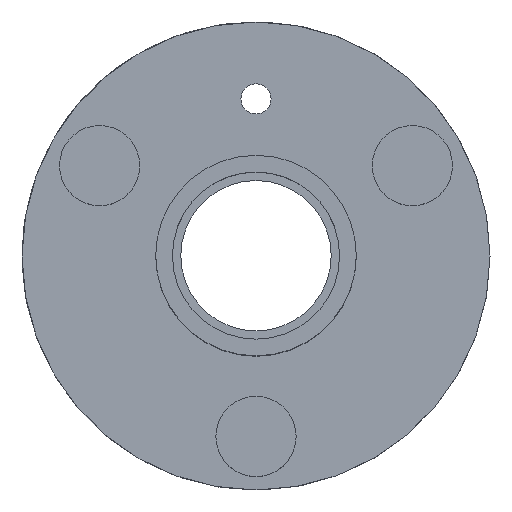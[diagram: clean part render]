
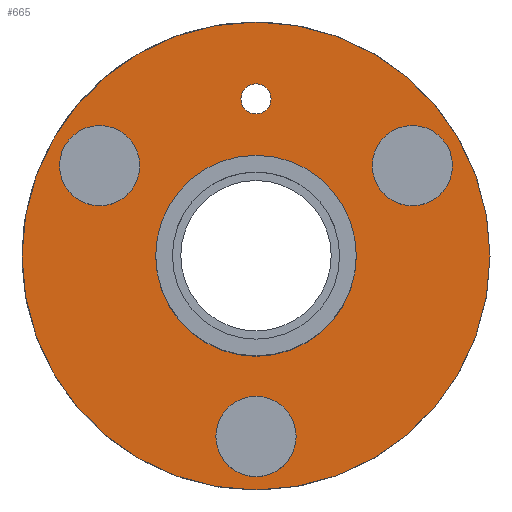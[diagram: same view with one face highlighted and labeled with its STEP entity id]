
A CAD part, top view. The second image highlights one B-rep face of the part: STEP entity #665.
In plain terms, the highlighted planar face has unit normal (0, 0, 1).
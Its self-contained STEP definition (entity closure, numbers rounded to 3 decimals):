
#24 = VERTEX_POINT('',#25);
#25 = CARTESIAN_POINT('',(7.,0.,0.6));
#32 = CYLINDRICAL_SURFACE('',#33,7.);
#33 = AXIS2_PLACEMENT_3D('',#34,#35,#36);
#34 = CARTESIAN_POINT('',(0.,0.,0.));
#35 = DIRECTION('',(0.,0.,1.));
#36 = DIRECTION('',(1.,0.,-0.));
#51 = EDGE_CURVE('',#24,#24,#52,.T.);
#52 = SURFACE_CURVE('',#53,(#58,#65),.PCURVE_S1.);
#53 = CIRCLE('',#54,7.);
#54 = AXIS2_PLACEMENT_3D('',#55,#56,#57);
#55 = CARTESIAN_POINT('',(0.,0.,0.6));
#56 = DIRECTION('',(0.,0.,1.));
#57 = DIRECTION('',(1.,0.,-0.));
#58 = PCURVE('',#32,#59);
#59 = DEFINITIONAL_REPRESENTATION('',(#60),#64);
#60 = LINE('',#61,#62);
#61 = CARTESIAN_POINT('',(0.,0.6));
#62 = VECTOR('',#63,1.);
#63 = DIRECTION('',(1.,0.));
#64 = ( GEOMETRIC_REPRESENTATION_CONTEXT(2) 
PARAMETRIC_REPRESENTATION_CONTEXT() REPRESENTATION_CONTEXT('2D SPACE',''
  ) );
#65 = PCURVE('',#66,#71);
#66 = PLANE('',#67);
#67 = AXIS2_PLACEMENT_3D('',#68,#69,#70);
#68 = CARTESIAN_POINT('',(0.,0.,0.6));
#69 = DIRECTION('',(0.,0.,1.));
#70 = DIRECTION('',(1.,0.,-0.));
#71 = DEFINITIONAL_REPRESENTATION('',(#72),#76);
#72 = CIRCLE('',#73,7.);
#73 = AXIS2_PLACEMENT_2D('',#74,#75);
#74 = CARTESIAN_POINT('',(0.,0.));
#75 = DIRECTION('',(1.,0.));
#76 = ( GEOMETRIC_REPRESENTATION_CONTEXT(2) 
PARAMETRIC_REPRESENTATION_CONTEXT() REPRESENTATION_CONTEXT('2D SPACE',''
  ) );
#449 = CYLINDRICAL_SURFACE('',#450,0.45);
#450 = AXIS2_PLACEMENT_3D('',#451,#452,#453);
#451 = CARTESIAN_POINT('',(0.,4.7,-0.01));
#452 = DIRECTION('',(0.,0.,1.));
#453 = DIRECTION('',(1.,0.,-0.));
#665 = ADVANCED_FACE('',(#666,#669,#700,#731,#762,#788),#66,.T.);
#666 = FACE_BOUND('',#667,.T.);
#667 = EDGE_LOOP('',(#668));
#668 = ORIENTED_EDGE('',*,*,#51,.T.);
#669 = FACE_BOUND('',#670,.T.);
#670 = EDGE_LOOP('',(#671));
#671 = ORIENTED_EDGE('',*,*,#672,.F.);
#672 = EDGE_CURVE('',#673,#673,#675,.T.);
#673 = VERTEX_POINT('',#674);
#674 = CARTESIAN_POINT('',(1.2,-5.4,0.6));
#675 = SURFACE_CURVE('',#676,(#681,#688),.PCURVE_S1.);
#676 = CIRCLE('',#677,1.2);
#677 = AXIS2_PLACEMENT_3D('',#678,#679,#680);
#678 = CARTESIAN_POINT('',(0.,-5.4,0.6));
#679 = DIRECTION('',(0.,0.,1.));
#680 = DIRECTION('',(1.,0.,-0.));
#681 = PCURVE('',#66,#682);
#682 = DEFINITIONAL_REPRESENTATION('',(#683),#687);
#683 = CIRCLE('',#684,1.2);
#684 = AXIS2_PLACEMENT_2D('',#685,#686);
#685 = CARTESIAN_POINT('',(0.,-5.4));
#686 = DIRECTION('',(1.,0.));
#687 = ( GEOMETRIC_REPRESENTATION_CONTEXT(2) 
PARAMETRIC_REPRESENTATION_CONTEXT() REPRESENTATION_CONTEXT('2D SPACE',''
  ) );
#688 = PCURVE('',#689,#694);
#689 = CYLINDRICAL_SURFACE('',#690,1.2);
#690 = AXIS2_PLACEMENT_3D('',#691,#692,#693);
#691 = CARTESIAN_POINT('',(0.,-5.4,0.6));
#692 = DIRECTION('',(0.,0.,1.));
#693 = DIRECTION('',(1.,0.,-0.));
#694 = DEFINITIONAL_REPRESENTATION('',(#695),#699);
#695 = LINE('',#696,#697);
#696 = CARTESIAN_POINT('',(0.,0.));
#697 = VECTOR('',#698,1.);
#698 = DIRECTION('',(1.,0.));
#699 = ( GEOMETRIC_REPRESENTATION_CONTEXT(2) 
PARAMETRIC_REPRESENTATION_CONTEXT() REPRESENTATION_CONTEXT('2D SPACE',''
  ) );
#700 = FACE_BOUND('',#701,.T.);
#701 = EDGE_LOOP('',(#702));
#702 = ORIENTED_EDGE('',*,*,#703,.F.);
#703 = EDGE_CURVE('',#704,#704,#706,.T.);
#704 = VERTEX_POINT('',#705);
#705 = CARTESIAN_POINT('',(-3.477,2.7,0.6));
#706 = SURFACE_CURVE('',#707,(#712,#719),.PCURVE_S1.);
#707 = CIRCLE('',#708,1.2);
#708 = AXIS2_PLACEMENT_3D('',#709,#710,#711);
#709 = CARTESIAN_POINT('',(-4.677,2.7,0.6));
#710 = DIRECTION('',(0.,0.,1.));
#711 = DIRECTION('',(1.,0.,-0.));
#712 = PCURVE('',#66,#713);
#713 = DEFINITIONAL_REPRESENTATION('',(#714),#718);
#714 = CIRCLE('',#715,1.2);
#715 = AXIS2_PLACEMENT_2D('',#716,#717);
#716 = CARTESIAN_POINT('',(-4.677,2.7));
#717 = DIRECTION('',(1.,0.));
#718 = ( GEOMETRIC_REPRESENTATION_CONTEXT(2) 
PARAMETRIC_REPRESENTATION_CONTEXT() REPRESENTATION_CONTEXT('2D SPACE',''
  ) );
#719 = PCURVE('',#720,#725);
#720 = CYLINDRICAL_SURFACE('',#721,1.2);
#721 = AXIS2_PLACEMENT_3D('',#722,#723,#724);
#722 = CARTESIAN_POINT('',(-4.677,2.7,0.6));
#723 = DIRECTION('',(0.,0.,1.));
#724 = DIRECTION('',(1.,0.,-0.));
#725 = DEFINITIONAL_REPRESENTATION('',(#726),#730);
#726 = LINE('',#727,#728);
#727 = CARTESIAN_POINT('',(0.,0.));
#728 = VECTOR('',#729,1.);
#729 = DIRECTION('',(1.,0.));
#730 = ( GEOMETRIC_REPRESENTATION_CONTEXT(2) 
PARAMETRIC_REPRESENTATION_CONTEXT() REPRESENTATION_CONTEXT('2D SPACE',''
  ) );
#731 = FACE_BOUND('',#732,.T.);
#732 = EDGE_LOOP('',(#733));
#733 = ORIENTED_EDGE('',*,*,#734,.F.);
#734 = EDGE_CURVE('',#735,#735,#737,.T.);
#735 = VERTEX_POINT('',#736);
#736 = CARTESIAN_POINT('',(3.,0.,0.6));
#737 = SURFACE_CURVE('',#738,(#743,#750),.PCURVE_S1.);
#738 = CIRCLE('',#739,3.);
#739 = AXIS2_PLACEMENT_3D('',#740,#741,#742);
#740 = CARTESIAN_POINT('',(0.,0.,0.6));
#741 = DIRECTION('',(0.,0.,1.));
#742 = DIRECTION('',(1.,0.,-0.));
#743 = PCURVE('',#66,#744);
#744 = DEFINITIONAL_REPRESENTATION('',(#745),#749);
#745 = CIRCLE('',#746,3.);
#746 = AXIS2_PLACEMENT_2D('',#747,#748);
#747 = CARTESIAN_POINT('',(0.,0.));
#748 = DIRECTION('',(1.,0.));
#749 = ( GEOMETRIC_REPRESENTATION_CONTEXT(2) 
PARAMETRIC_REPRESENTATION_CONTEXT() REPRESENTATION_CONTEXT('2D SPACE',''
  ) );
#750 = PCURVE('',#751,#756);
#751 = CYLINDRICAL_SURFACE('',#752,3.);
#752 = AXIS2_PLACEMENT_3D('',#753,#754,#755);
#753 = CARTESIAN_POINT('',(0.,0.,0.6));
#754 = DIRECTION('',(0.,0.,1.));
#755 = DIRECTION('',(1.,0.,-0.));
#756 = DEFINITIONAL_REPRESENTATION('',(#757),#761);
#757 = LINE('',#758,#759);
#758 = CARTESIAN_POINT('',(0.,0.));
#759 = VECTOR('',#760,1.);
#760 = DIRECTION('',(1.,0.));
#761 = ( GEOMETRIC_REPRESENTATION_CONTEXT(2) 
PARAMETRIC_REPRESENTATION_CONTEXT() REPRESENTATION_CONTEXT('2D SPACE',''
  ) );
#762 = FACE_BOUND('',#763,.T.);
#763 = EDGE_LOOP('',(#764));
#764 = ORIENTED_EDGE('',*,*,#765,.F.);
#765 = EDGE_CURVE('',#766,#766,#768,.T.);
#766 = VERTEX_POINT('',#767);
#767 = CARTESIAN_POINT('',(0.45,4.7,0.6));
#768 = SURFACE_CURVE('',#769,(#774,#781),.PCURVE_S1.);
#769 = CIRCLE('',#770,0.45);
#770 = AXIS2_PLACEMENT_3D('',#771,#772,#773);
#771 = CARTESIAN_POINT('',(0.,4.7,0.6));
#772 = DIRECTION('',(0.,0.,1.));
#773 = DIRECTION('',(1.,0.,-0.));
#774 = PCURVE('',#66,#775);
#775 = DEFINITIONAL_REPRESENTATION('',(#776),#780);
#776 = CIRCLE('',#777,0.45);
#777 = AXIS2_PLACEMENT_2D('',#778,#779);
#778 = CARTESIAN_POINT('',(0.,4.7));
#779 = DIRECTION('',(1.,0.));
#780 = ( GEOMETRIC_REPRESENTATION_CONTEXT(2) 
PARAMETRIC_REPRESENTATION_CONTEXT() REPRESENTATION_CONTEXT('2D SPACE',''
  ) );
#781 = PCURVE('',#449,#782);
#782 = DEFINITIONAL_REPRESENTATION('',(#783),#787);
#783 = LINE('',#784,#785);
#784 = CARTESIAN_POINT('',(0.,0.61));
#785 = VECTOR('',#786,1.);
#786 = DIRECTION('',(1.,0.));
#787 = ( GEOMETRIC_REPRESENTATION_CONTEXT(2) 
PARAMETRIC_REPRESENTATION_CONTEXT() REPRESENTATION_CONTEXT('2D SPACE',''
  ) );
#788 = FACE_BOUND('',#789,.T.);
#789 = EDGE_LOOP('',(#790));
#790 = ORIENTED_EDGE('',*,*,#791,.F.);
#791 = EDGE_CURVE('',#792,#792,#794,.T.);
#792 = VERTEX_POINT('',#793);
#793 = CARTESIAN_POINT('',(5.877,2.7,0.6));
#794 = SURFACE_CURVE('',#795,(#800,#807),.PCURVE_S1.);
#795 = CIRCLE('',#796,1.2);
#796 = AXIS2_PLACEMENT_3D('',#797,#798,#799);
#797 = CARTESIAN_POINT('',(4.677,2.7,0.6));
#798 = DIRECTION('',(0.,0.,1.));
#799 = DIRECTION('',(1.,0.,-0.));
#800 = PCURVE('',#66,#801);
#801 = DEFINITIONAL_REPRESENTATION('',(#802),#806);
#802 = CIRCLE('',#803,1.2);
#803 = AXIS2_PLACEMENT_2D('',#804,#805);
#804 = CARTESIAN_POINT('',(4.677,2.7));
#805 = DIRECTION('',(1.,0.));
#806 = ( GEOMETRIC_REPRESENTATION_CONTEXT(2) 
PARAMETRIC_REPRESENTATION_CONTEXT() REPRESENTATION_CONTEXT('2D SPACE',''
  ) );
#807 = PCURVE('',#808,#813);
#808 = CYLINDRICAL_SURFACE('',#809,1.2);
#809 = AXIS2_PLACEMENT_3D('',#810,#811,#812);
#810 = CARTESIAN_POINT('',(4.677,2.7,0.6));
#811 = DIRECTION('',(0.,0.,1.));
#812 = DIRECTION('',(1.,0.,-0.));
#813 = DEFINITIONAL_REPRESENTATION('',(#814),#818);
#814 = LINE('',#815,#816);
#815 = CARTESIAN_POINT('',(0.,0.));
#816 = VECTOR('',#817,1.);
#817 = DIRECTION('',(1.,0.));
#818 = ( GEOMETRIC_REPRESENTATION_CONTEXT(2) 
PARAMETRIC_REPRESENTATION_CONTEXT() REPRESENTATION_CONTEXT('2D SPACE',''
  ) );
